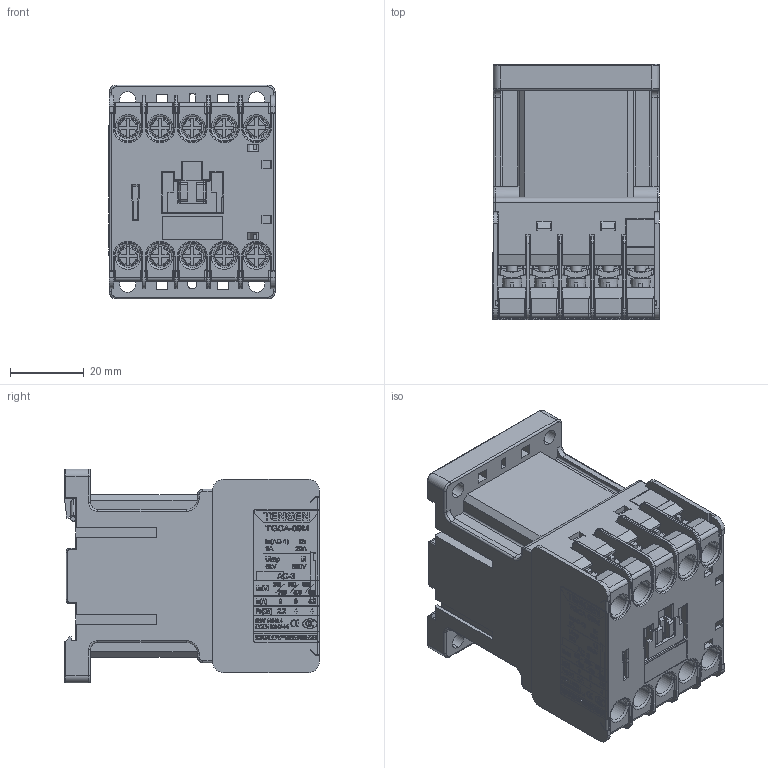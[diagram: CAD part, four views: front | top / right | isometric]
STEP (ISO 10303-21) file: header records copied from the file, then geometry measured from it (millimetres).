
FILE_DESCRIPTION (( 'STEP AP214' ), '1' );
FILE_NAME ('TGCA_06MZ_16MZ.STEP', '2026-02-02T10:13:37', ( '' ), ( '' ), 'SwSTEP 2.0', 'SolidWorks 2024', '' );
FILE_SCHEMA (( 'AUTOMOTIVE_DESIGN' ));
Products named in the file (1): TGCA_06MZ_16MZ
Bounding box: 45.11 x 69.1 x 58 mm (x, y, z)
Volume: 49325.7 mm3; surface area: 82953.6 mm2
Topology: 12 solids, 12 shells, 6935 faces, 19144 edges, 12380 vertices
Faces by surface type: plane 4123, bspline 1380, cylinder 1112, torus 218, cone 68, sphere 34
Entity records: 233022 total; most frequent: CARTESIAN_POINT 64363, ORIENTED_EDGE 38288, DIRECTION 29486, EDGE_CURVE 19144, LINE 13372, VECTOR 13372, VERTEX_POINT 12380, AXIS2_PLACEMENT_3D 8057
